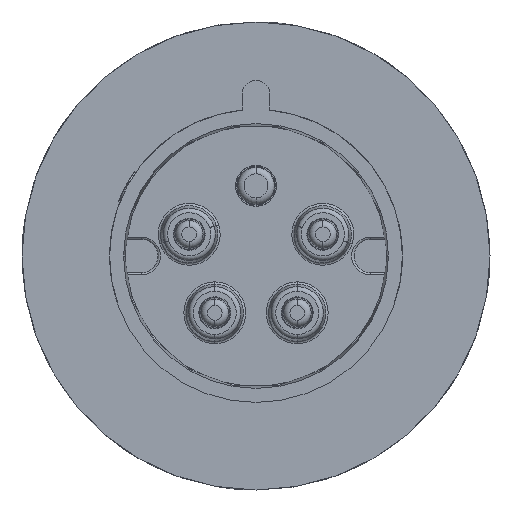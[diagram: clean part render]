
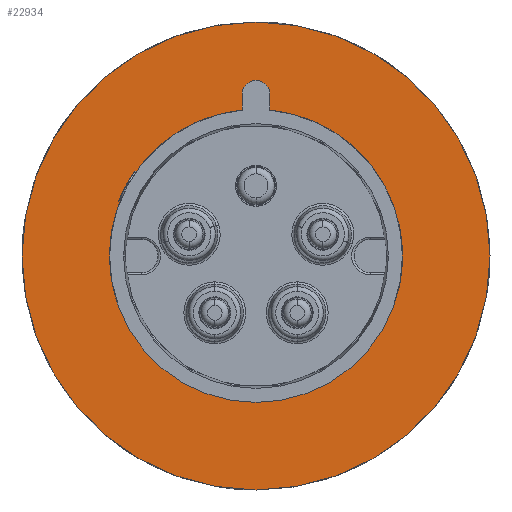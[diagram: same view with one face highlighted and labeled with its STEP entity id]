
A CAD part, front view. The second image highlights one B-rep face of the part: STEP entity #22934.
In plain terms, the highlighted planar face has unit normal (0, -1, 0).
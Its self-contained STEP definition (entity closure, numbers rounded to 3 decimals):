
#869=CARTESIAN_POINT('',(0.,-7.5,0.));
#870=DIRECTION('',(0.,-1.,0.));
#871=DIRECTION('',(1.,0.,0.));
#872=AXIS2_PLACEMENT_3D('',#869,#870,#871);
#1011=CARTESIAN_POINT('',(0.,-7.5,0.));
#1012=DIRECTION('',(0.,-1.,0.));
#1013=DIRECTION('',(0.,0.,1.));
#1014=AXIS2_PLACEMENT_3D('',#1011,#1012,#1013);
#1334=CARTESIAN_POINT('',(0.,-7.5,0.));
#1335=DIRECTION('',(0.,1.,0.));
#1336=DIRECTION('',(0.,0.,1.));
#1337=AXIS2_PLACEMENT_3D('',#1334,#1335,#1336);
#17271=CARTESIAN_POINT('',(0.,-7.5,0.));
#17272=DIRECTION('',(0.,-1.,0.));
#17273=DIRECTION('',(-1.,0.,0.));
#17274=AXIS2_PLACEMENT_3D('',#17271,#17272,#17273);
#20023=CARTESIAN_POINT('',(0.,-7.5,50.5));
#20025=VERTEX_POINT('',#20023);
#20027=CARTESIAN_POINT('',(0.,-7.5,-50.5));
#20029=VERTEX_POINT('',#20027);
#20167=CARTESIAN_POINT('',(31.6,-7.5,0.));
#20168=CARTESIAN_POINT('',(-31.6,-7.5,0.));
#20169=VERTEX_POINT('',#20167);
#20170=VERTEX_POINT('',#20168);
#22918=CARTESIAN_POINT('',(0.,-7.5,0.));
#22919=DIRECTION('',(0.,-1.,0.));
#22920=DIRECTION('',(0.,0.,-1.));
#22921=AXIS2_PLACEMENT_3D('',#22918,#22919,#22920);
#22922=PLANE('531',#22921);
#22924=ORIENTED_EDGE('1598',*,*,#22923,.F.);
#22926=ORIENTED_EDGE('1599',*,*,#22925,.T.);
#22927=EDGE_LOOP('531',(#22924,#22926));
#22928=FACE_OUTER_BOUND('531',#22927,.F.);
#22929=ORIENTED_EDGE('1746',*,*,#22837,.T.);
#22931=ORIENTED_EDGE('1747',*,*,#22930,.T.);
#22932=EDGE_LOOP('531',(#22929,#22931));
#22933=FACE_BOUND('531',#22932,.F.);
#873=CIRCLE('1746',#872,31.6);
#1015=CIRCLE('1598',#1014,50.5);
#1338=CIRCLE('1599',#1337,50.5);
#17275=CIRCLE('1747',#17274,31.6);
#22837=EDGE_CURVE('1746',#20169,#20170,#873,.T.);
#22923=EDGE_CURVE('1598',#20025,#20029,#1015,.T.);
#22925=EDGE_CURVE('1599',#20025,#20029,#1338,.T.);
#22930=EDGE_CURVE('1747',#20170,#20169,#17275,.T.);
#22934=ADVANCED_FACE('531',(#22928,#22933),#22922,.T.);
